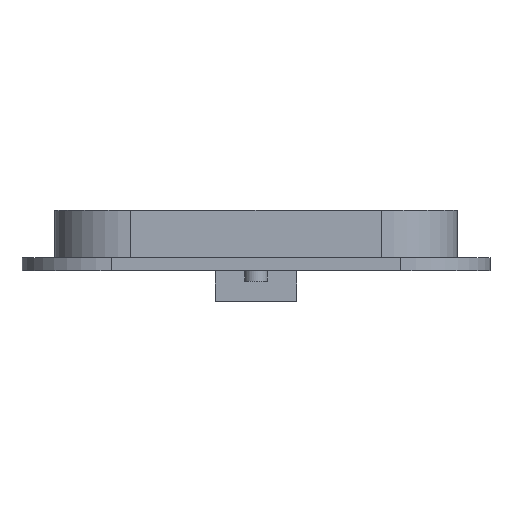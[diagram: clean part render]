
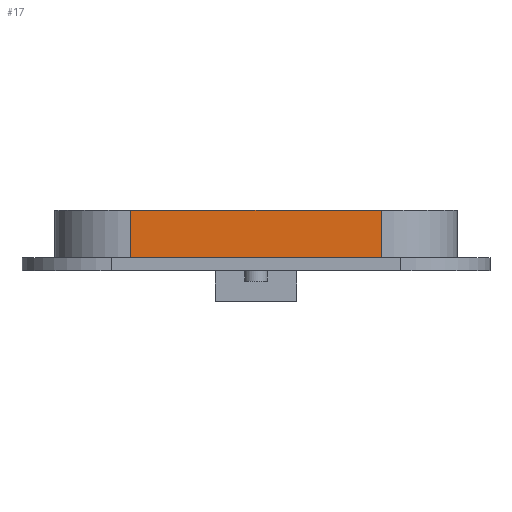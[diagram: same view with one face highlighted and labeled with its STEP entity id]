
A CAD part, left-side view. The second image highlights one B-rep face of the part: STEP entity #17.
In plain terms, the highlighted planar face has unit normal (-1, 0, 0).
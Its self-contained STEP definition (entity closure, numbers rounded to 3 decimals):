
#17 = ADVANCED_FACE('',(#18),#32,.F.);
#18 = FACE_BOUND('',#19,.F.);
#19 = EDGE_LOOP('',(#20,#55,#83,#111));
#20 = ORIENTED_EDGE('',*,*,#21,.F.);
#21 = EDGE_CURVE('',#22,#24,#26,.T.);
#22 = VERTEX_POINT('',#23);
#23 = CARTESIAN_POINT('',(-12.4,-54.2,13.8));
#24 = VERTEX_POINT('',#25);
#25 = CARTESIAN_POINT('',(-12.4,-38.8,13.8));
#26 = SURFACE_CURVE('',#27,(#31,#43),.PCURVE_S1.);
#27 = LINE('',#28,#29);
#28 = CARTESIAN_POINT('',(-12.4,-58.9,13.8));
#29 = VECTOR('',#30,1.);
#30 = DIRECTION('',(0.,1.,0.));
#31 = PCURVE('',#32,#37);
#32 = PLANE('',#33);
#33 = AXIS2_PLACEMENT_3D('',#34,#35,#36);
#34 = CARTESIAN_POINT('',(-12.4,-58.9,12.2));
#35 = DIRECTION('',(1.,0.,0.));
#36 = DIRECTION('',(0.,0.,1.));
#37 = DEFINITIONAL_REPRESENTATION('',(#38),#42);
#38 = LINE('',#39,#40);
#39 = CARTESIAN_POINT('',(1.6,0.));
#40 = VECTOR('',#41,1.);
#41 = DIRECTION('',(0.,-1.));
#42 = ( GEOMETRIC_REPRESENTATION_CONTEXT(2) 
PARAMETRIC_REPRESENTATION_CONTEXT() REPRESENTATION_CONTEXT('2D SPACE',''
  ) );
#43 = PCURVE('',#44,#49);
#44 = PLANE('',#45);
#45 = AXIS2_PLACEMENT_3D('',#46,#47,#48);
#46 = CARTESIAN_POINT('',(-12.4,-58.9,13.8));
#47 = DIRECTION('',(0.,0.,1.));
#48 = DIRECTION('',(1.,0.,-0.));
#49 = DEFINITIONAL_REPRESENTATION('',(#50),#54);
#50 = LINE('',#51,#52);
#51 = CARTESIAN_POINT('',(0.,0.));
#52 = VECTOR('',#53,1.);
#53 = DIRECTION('',(0.,1.));
#54 = ( GEOMETRIC_REPRESENTATION_CONTEXT(2) 
PARAMETRIC_REPRESENTATION_CONTEXT() REPRESENTATION_CONTEXT('2D SPACE',''
  ) );
#55 = ORIENTED_EDGE('',*,*,#56,.F.);
#56 = EDGE_CURVE('',#57,#22,#59,.T.);
#57 = VERTEX_POINT('',#58);
#58 = CARTESIAN_POINT('',(-12.4,-54.2,10.9));
#59 = SURFACE_CURVE('',#60,(#64,#71),.PCURVE_S1.);
#60 = LINE('',#61,#62);
#61 = CARTESIAN_POINT('',(-12.4,-54.2,10.9));
#62 = VECTOR('',#63,1.);
#63 = DIRECTION('',(0.,0.,1.));
#64 = PCURVE('',#32,#65);
#65 = DEFINITIONAL_REPRESENTATION('',(#66),#70);
#66 = LINE('',#67,#68);
#67 = CARTESIAN_POINT('',(-1.3,-4.7));
#68 = VECTOR('',#69,1.);
#69 = DIRECTION('',(1.,0.));
#70 = ( GEOMETRIC_REPRESENTATION_CONTEXT(2) 
PARAMETRIC_REPRESENTATION_CONTEXT() REPRESENTATION_CONTEXT('2D SPACE',''
  ) );
#71 = PCURVE('',#72,#77);
#72 = CYLINDRICAL_SURFACE('',#73,4.7);
#73 = AXIS2_PLACEMENT_3D('',#74,#75,#76);
#74 = CARTESIAN_POINT('',(-7.7,-54.2,12.2));
#75 = DIRECTION('',(0.,0.,1.));
#76 = DIRECTION('',(-1.,-0.,0.));
#77 = DEFINITIONAL_REPRESENTATION('',(#78),#82);
#78 = LINE('',#79,#80);
#79 = CARTESIAN_POINT('',(0.,-1.3));
#80 = VECTOR('',#81,1.);
#81 = DIRECTION('',(0.,1.));
#82 = ( GEOMETRIC_REPRESENTATION_CONTEXT(2) 
PARAMETRIC_REPRESENTATION_CONTEXT() REPRESENTATION_CONTEXT('2D SPACE',''
  ) );
#83 = ORIENTED_EDGE('',*,*,#84,.T.);
#84 = EDGE_CURVE('',#57,#85,#87,.T.);
#85 = VERTEX_POINT('',#86);
#86 = CARTESIAN_POINT('',(-12.4,-38.8,10.9));
#87 = SURFACE_CURVE('',#88,(#92,#99),.PCURVE_S1.);
#88 = LINE('',#89,#90);
#89 = CARTESIAN_POINT('',(-12.4,-59.9,10.9));
#90 = VECTOR('',#91,1.);
#91 = DIRECTION('',(0.,1.,0.));
#92 = PCURVE('',#32,#93);
#93 = DEFINITIONAL_REPRESENTATION('',(#94),#98);
#94 = LINE('',#95,#96);
#95 = CARTESIAN_POINT('',(-1.3,1.));
#96 = VECTOR('',#97,1.);
#97 = DIRECTION('',(0.,-1.));
#98 = ( GEOMETRIC_REPRESENTATION_CONTEXT(2) 
PARAMETRIC_REPRESENTATION_CONTEXT() REPRESENTATION_CONTEXT('2D SPACE',''
  ) );
#99 = PCURVE('',#100,#105);
#100 = PLANE('',#101);
#101 = AXIS2_PLACEMENT_3D('',#102,#103,#104);
#102 = CARTESIAN_POINT('',(-14.4,-60.9,10.9));
#103 = DIRECTION('',(0.,0.,1.));
#104 = DIRECTION('',(1.,0.,-0.));
#105 = DEFINITIONAL_REPRESENTATION('',(#106),#110);
#106 = LINE('',#107,#108);
#107 = CARTESIAN_POINT('',(2.,1.));
#108 = VECTOR('',#109,1.);
#109 = DIRECTION('',(0.,1.));
#110 = ( GEOMETRIC_REPRESENTATION_CONTEXT(2) 
PARAMETRIC_REPRESENTATION_CONTEXT() REPRESENTATION_CONTEXT('2D SPACE',''
  ) );
#111 = ORIENTED_EDGE('',*,*,#112,.F.);
#112 = EDGE_CURVE('',#24,#85,#113,.T.);
#113 = SURFACE_CURVE('',#114,(#118,#125),.PCURVE_S1.);
#114 = LINE('',#115,#116);
#115 = CARTESIAN_POINT('',(-12.4,-38.8,13.8));
#116 = VECTOR('',#117,1.);
#117 = DIRECTION('',(0.,0.,-1.));
#118 = PCURVE('',#32,#119);
#119 = DEFINITIONAL_REPRESENTATION('',(#120),#124);
#120 = LINE('',#121,#122);
#121 = CARTESIAN_POINT('',(1.6,-20.1));
#122 = VECTOR('',#123,1.);
#123 = DIRECTION('',(-1.,0.));
#124 = ( GEOMETRIC_REPRESENTATION_CONTEXT(2) 
PARAMETRIC_REPRESENTATION_CONTEXT() REPRESENTATION_CONTEXT('2D SPACE',''
  ) );
#125 = PCURVE('',#126,#131);
#126 = CYLINDRICAL_SURFACE('',#127,4.7);
#127 = AXIS2_PLACEMENT_3D('',#128,#129,#130);
#128 = CARTESIAN_POINT('',(-7.7,-38.8,12.2));
#129 = DIRECTION('',(0.,0.,1.));
#130 = DIRECTION('',(-1.,-0.,0.));
#131 = DEFINITIONAL_REPRESENTATION('',(#132),#136);
#132 = LINE('',#133,#134);
#133 = CARTESIAN_POINT('',(6.283,1.6));
#134 = VECTOR('',#135,1.);
#135 = DIRECTION('',(-0.,-1.));
#136 = ( GEOMETRIC_REPRESENTATION_CONTEXT(2) 
PARAMETRIC_REPRESENTATION_CONTEXT() REPRESENTATION_CONTEXT('2D SPACE',''
  ) );
